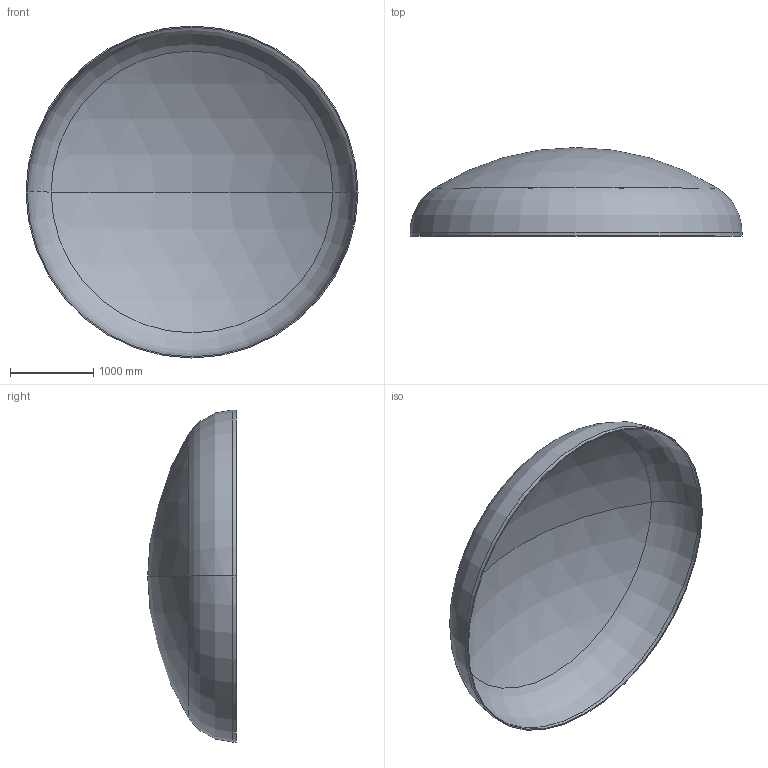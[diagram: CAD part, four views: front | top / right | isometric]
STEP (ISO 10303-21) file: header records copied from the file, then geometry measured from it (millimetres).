
FILE_DESCRIPTION (( 'STEP AP203' ), '1' );
FILE_NAME ('DIN 28013 Korbbogenform_-_Boden DIN 28013 - 4000 x 45 - I - s=14.step', '2016-07-01T22:03:23', ( '' ), ( '' ), 'SwSTEP 2.0', 'SolidWorks 2013', '' );
FILE_SCHEMA (( 'CONFIG_CONTROL_DESIGN' ));
Length unit declared in the file: millimetre
Products named in the file (1): DIN 28013 Korbbogenform_-_Boden DIN 28013 - 4000 x 45 - I - s=14
Bounding box: 4000 x 1067.52 x 4000 mm (x, y, z)
Volume: 250361738.3 mm3; surface area: 35941672.1 mm2
Topology: 1 solids, 1 shells, 13 faces, 24 edges, 14 vertices
Faces by surface type: torus 4, cylinder 4, sphere 4, plane 1
Entity records: 407 total; most frequent: DIRECTION 72, CARTESIAN_POINT 52, ORIENTED_EDGE 48, AXIS2_PLACEMENT_3D 34, EDGE_CURVE 24, CIRCLE 20, VERTEX_POINT 14, EDGE_LOOP 14
